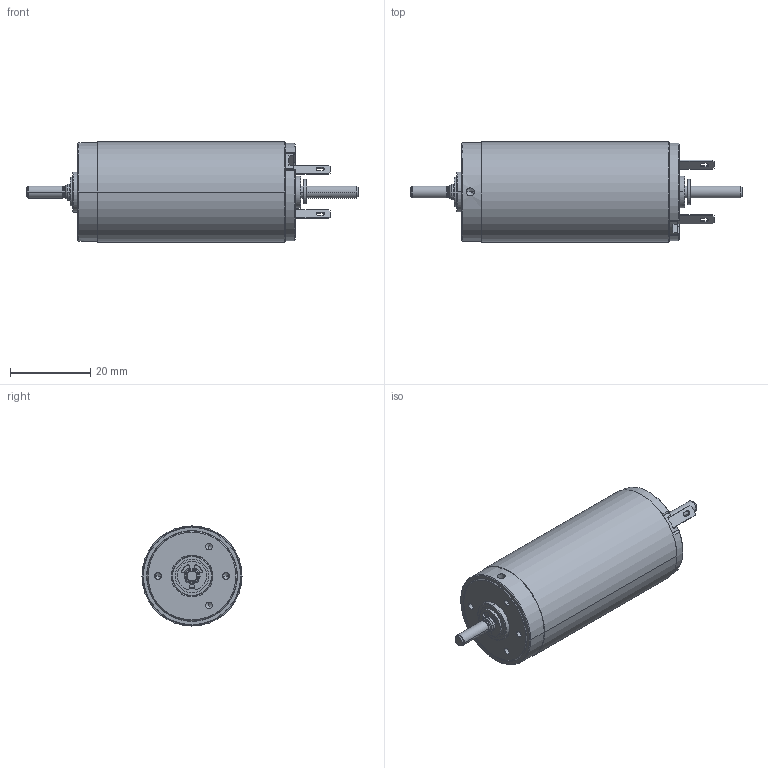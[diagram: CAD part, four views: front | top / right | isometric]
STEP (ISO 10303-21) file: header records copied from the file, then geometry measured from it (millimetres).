
FILE_DESCRIPTION((''),'2;1');
FILE_NAME('118749_RE25_GB_20W_KL_2WE','2016-10-03T',('mmagvisi'),(''),'CREO PARAMETRIC BY PTC INC, 2016050','CREO PARAMETRIC BY PTC INC, 2016050','');
FILE_SCHEMA(('CONFIG_CONTROL_DESIGN'));
Length unit declared in the file: millimetre
Products named in the file (1): 118749_RE25_GB_20W_KL_2WE
Bounding box: 83 x 25.03 x 25.03 mm (x, y, z)
Volume: 26843.3 mm3; surface area: 6741.9 mm2
Topology: 3 solids, 5 shells, 368 faces, 969 edges, 611 vertices
Faces by surface type: cylinder 141, plane 136, cone 40, torus 35, bspline 16
Entity records: 16127 total; most frequent: CARTESIAN_POINT 2603, DIRECTION 2042, ORIENTED_EDGE 1914, PRESENTATION_STYLE_ASSIGNMENT 1124, STYLED_ITEM 960, CURVE_STYLE 957, EDGE_CURVE 957, AXIS2_PLACEMENT_3D 787
